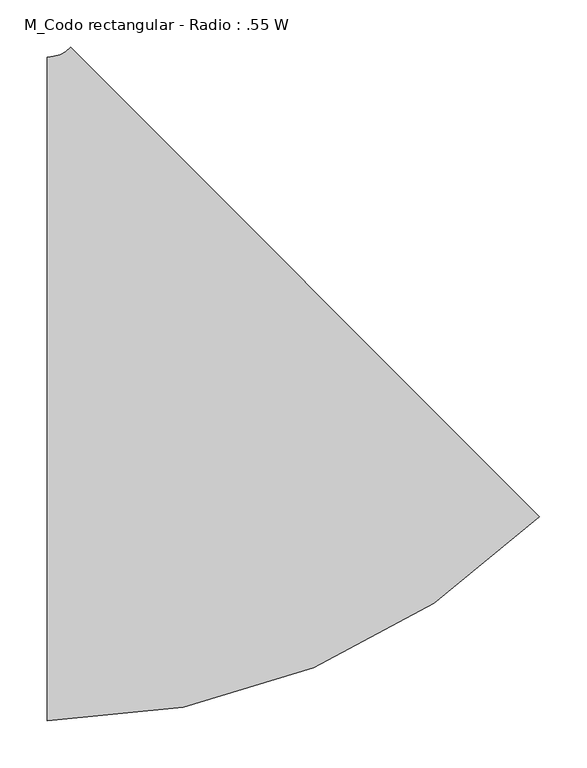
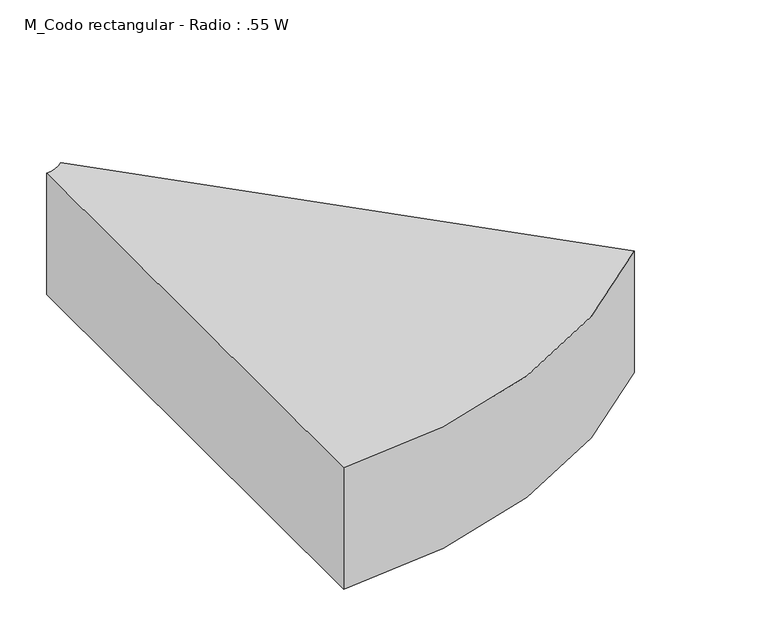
"""IFC4 building model written with IfcOpenShell, lengths in millimetres: duct fitting geometry, M_Codo rectangular - Radio : .55 W."""

from ifc_helpers import new_model, si_unit, point, frame, frame_2d, origin, place, context, project, spatial, polyline, circle_curve, trimmed, segment, composite_curve, outline, extrude, source, transform, mapped, element, save


def m_codo_rectangular_radio_55_w_865d8d36(model_context):
    return source(origin(), model_context, "Body", "SweptSolid", [
        extrude(outline(composite_curve([segment(trimmed(circle_curve(frame_2d((-159.4722215, 385.0)), 735.0), [point((360.2512627, -134.7234842))], [point((-159.4722215, -350.0))], False, "CARTESIAN"), True, "CONTINUOUS"), segment(polyline([(-159.4722215, -350.0), (-159.4722215, 350.0)]), True, "CONTINUOUS"), segment(trimmed(circle_curve(frame_2d((-159.4722215, 385.0)), 35.0), [point((-159.4722215, 350.0))], [point((-134.7234842, 360.2512627))], True, "CARTESIAN"), True, "CONTINUOUS"), segment(polyline([(-134.7234842, 360.2512627), (360.2512627, -134.7234842)]), True, "CONTINUOUS")], self_intersect=False)), frame((0.0, 0.0, -87.5), z_axis=(0.0, 0.0, 1.0), x_axis=(1.0, 0.0, 0.0)), (0.0, 0.0, 1.0), 175.0),
    ])


if __name__ == "__main__":
    model = new_model("IFC4")
    model_context = context("Model", 3, world=origin())
    ifc_project = project(units=[si_unit("LENGTHUNIT", "METRE", prefix="MILLI")], contexts=[model_context])
    site = spatial("IfcSite", under=ifc_project)
    building = spatial("IfcBuilding", under=site)
    placement = place(None, origin())
    m_codo_rectangular_radio_55_w_shape = m_codo_rectangular_radio_55_w_865d8d36(model_context)
    element("IfcDuctFitting", 1, ObjectType="M_Codo rectangular - Radio : .55 W", at=placement, inside=building, context=model_context, shape_type="MappedRepresentation", body=[
        mapped(m_codo_rectangular_radio_55_w_shape, transform((0.0, 0.0, 0.0), x_axis=(1.0, 0.0, 0.0), y_axis=(0.0, 1.0, 0.0), z_axis=(0.0, 0.0, 1.0))),
    ])
    save(model, "model.ifc")
